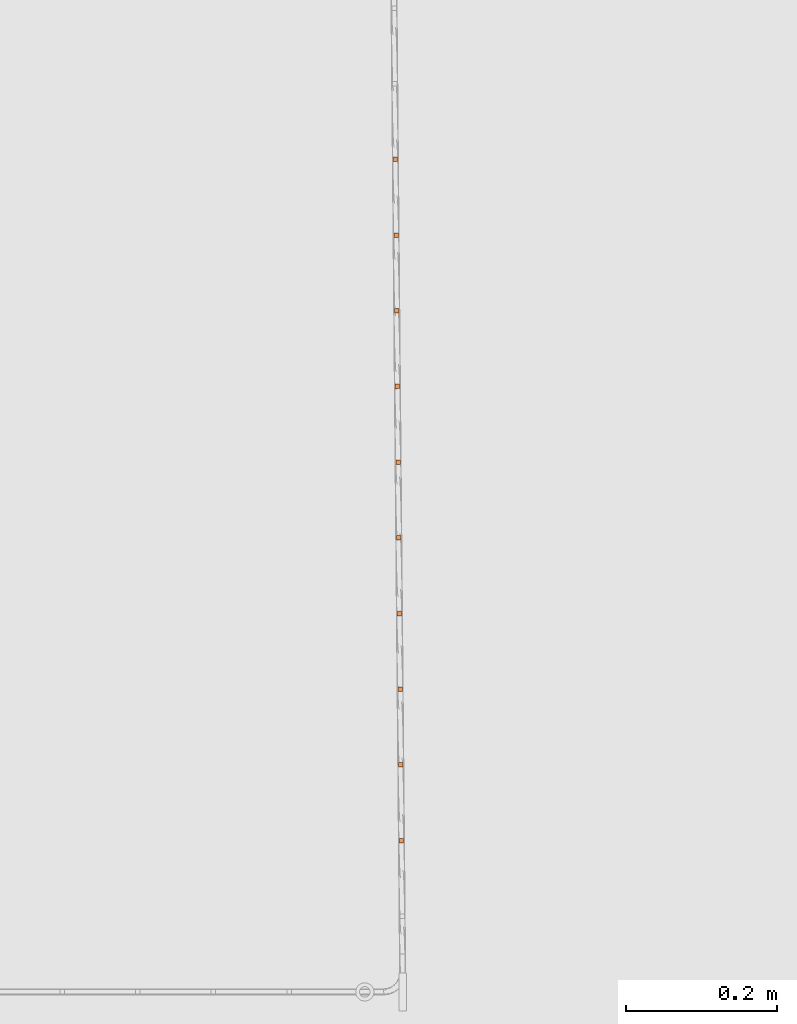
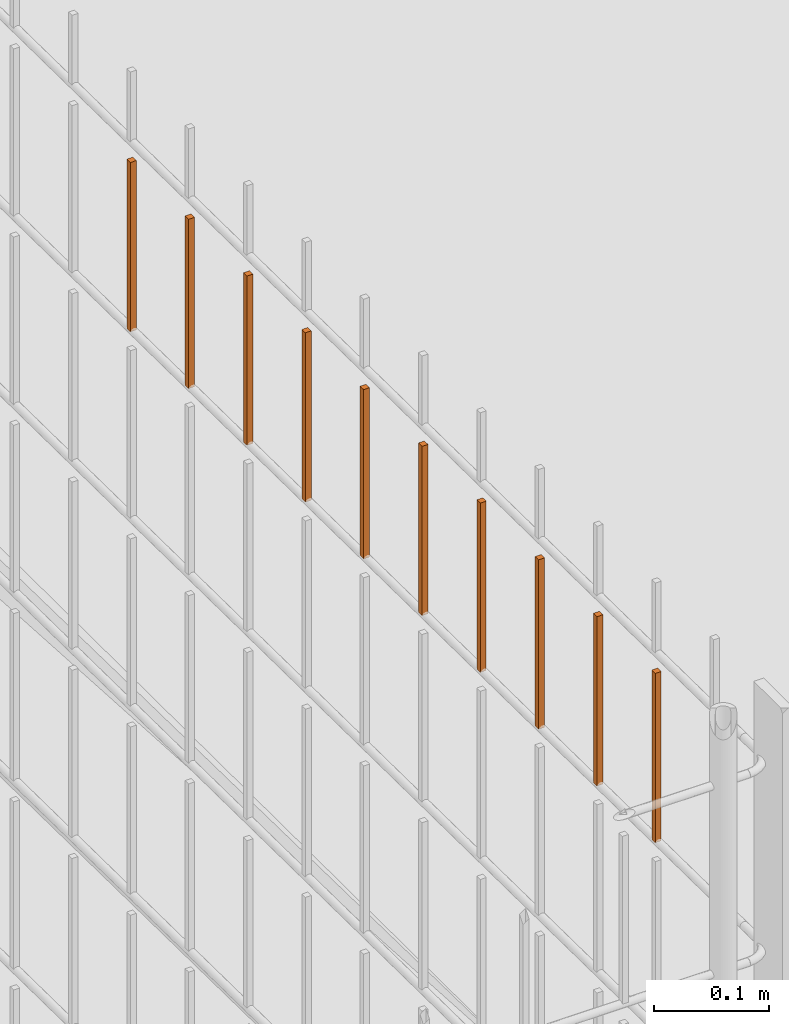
# One storey, part 255 of 1809: 10 proxies, 1 element without a shape of its own.
"""IFC2X3 building model written with IfcOpenShell, lengths in millimetres."""

from ifc_helpers import new_model, entity, si_unit, converted_unit, derived_unit, money_unit, direction, frame, origin_with_axes, place, context, subcontext, project, spatial, faceted_brep, source, transform, mapped, material, type_object, element, aggregate, save


model = new_model("IFC2X3")

# Units and contexts
model_context = context("Model", 3, precision=0.01, world=origin_with_axes(), true_north=direction((0.0, 1.0)))
body_context = subcontext(model_context, "Body", "Model", "MODEL_VIEW")
ifc_project = project(units=[si_unit("LENGTHUNIT", "METRE", prefix="MILLI"), si_unit("AREAUNIT", "SQUARE_METRE"), si_unit("VOLUMEUNIT", "CUBIC_METRE"), converted_unit("PLANEANGLEUNIT", "DEGREE", entity("IfcPlaneAngleMeasure", 0.0174532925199), si_unit("PLANEANGLEUNIT", "RADIAN"), dimensions=[0, 0, 0, 0, 0, 0, 0]), si_unit("SOLIDANGLEUNIT", "STERADIAN"), money_unit("EUR"), converted_unit("TIMEUNIT", "Year", entity("IfcTimeMeasure", 31556926.0), si_unit("TIMEUNIT", "SECOND"), dimensions=[0, 0, 1, 0, 0, 0, 0]), si_unit("MASSUNIT", "GRAM", prefix="KILO"), si_unit("THERMODYNAMICTEMPERATUREUNIT", "DEGREE_CELSIUS"), si_unit("LUMINOUSINTENSITYUNIT", "LUMEN"), si_unit("ENERGYUNIT", "JOULE", prefix="MEGA"), derived_unit("THERMALCONDUCTANCEUNIT", [(si_unit("POWERUNIT", "WATT"), 1), (si_unit("LENGTHUNIT", "METRE"), -1), (si_unit("THERMODYNAMICTEMPERATUREUNIT", "KELVIN"), -1)]), derived_unit("SPECIFICHEATCAPACITYUNIT", [(si_unit("ENERGYUNIT", "JOULE"), 1), (si_unit("MASSUNIT", "GRAM", prefix="KILO"), -1), (si_unit("THERMODYNAMICTEMPERATUREUNIT", "KELVIN"), -1)]), derived_unit("MASSDENSITYUNIT", [(si_unit("MASSUNIT", "GRAM", prefix="KILO"), 1), (si_unit("VOLUMEUNIT", "CUBIC_METRE"), -1)])], contexts=[model_context])

# Site, building, storey
site_placement = place(None, origin_with_axes())
site = spatial("IfcSite", under=ifc_project, at=site_placement, Name="Politse- ja Piirivalveameti ning Päästeameti ühishoone", CompositionType="ELEMENT")
building_placement = place(site_placement, origin_with_axes())
building = spatial("IfcBuilding", under=site, at=building_placement, Name="Politse- ja Piirivalveameti ning Päästeameti ühishoone", CompositionType="ELEMENT")
storey_placement = place(building_placement, origin_with_axes())
storey = spatial("IfcBuildingStorey", under=building, at=storey_placement, Name="Esimene korrus", CompositionType="ELEMENT", Elevation=0.0)

# Proxies
building_element_proxy_type_1 = type_object("IfcBuildingElementProxyType", Name="Railing Type", PredefinedType="NOTDEFINED")
proxy_1_placement = place(storey_placement, frame((-16775.8601056, 25156.7555964, 0.0), z_axis=(0.0, 0.0, 1.0), x_axis=(1.0, 0.0, 0.0)))
proxy_1 = element("IfcBuildingElementProxy", 1, at=proxy_1_placement, inside=storey, type_object=building_element_proxy_type_1, Name="KENNELI PIIRE")
ifc_material = material(Name="Teras - Konstruktsioon")
building_element_proxy_type_2 = type_object("IfcBuildingElementProxyType", Name="IfcBuildingElementProxy", PredefinedType="NOTDEFINED")
shared_shape_1 = source(origin_with_axes(), body_context, "Body", "Brep", [
    faceted_brep([(3.0, 3.0, 0.0), (-3.0, 3.0, 0.0), (-3.0, 3.0, 180.000012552), (3.0, 3.0, 180.000012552), (3.0, -3.0, 0.0), (-3.0, -3.0, 0.0), (-3.0, -3.0, 180.000012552), (3.0, -3.0, 180.000012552)], [[[0, 1, 2, 3]], [[0, 4, 5, 1]], [[1, 5, 6, 2]], [[3, 2, 6, 7]], [[4, 0, 3, 7]], [[5, 4, 7, 6]]]),
])
proxy_2_placement = place(proxy_1_placement, frame((159.928047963, -15168.8758821, 2203.99998745), z_axis=(0.0, 0.0, 1.0), x_axis=(1.0, 0.0, 0.0)))
proxy_2 = element("IfcBuildingElementProxy", 2, at=proxy_2_placement, type_object=building_element_proxy_type_2, material=ifc_material, Name="BALUSTER - 001", context=body_context, shape_type="MappedRepresentation", body=[
    mapped(shared_shape_1, transform((0.0, 0.0, 0.0), x_axis=(0.999960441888, 0.00889464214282, 0.0), y_axis=(-0.00889464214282, 0.999960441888, 0.0), z_axis=(0.0, 0.0, 1.0))),
])
proxy_3_placement = place(proxy_1_placement, frame((158.149119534, -14968.8837937, 2203.99998745), z_axis=(0.0, 0.0, 1.0), x_axis=(1.0, 0.0, 0.0)))
proxy_3 = element("IfcBuildingElementProxy", 3, at=proxy_3_placement, type_object=building_element_proxy_type_2, material=ifc_material, Name="BALUSTER - 001", context=body_context, shape_type="MappedRepresentation", body=[
    mapped(shared_shape_1, transform((0.0, 0.0, 0.0), x_axis=(0.999960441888, 0.00889464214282, 0.0), y_axis=(-0.00889464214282, 0.999960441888, 0.0), z_axis=(0.0, 0.0, 1.0))),
])
shared_shape_2 = source(origin_with_axes(), body_context, "Body", "Brep", [
    faceted_brep([(3.0, 3.0, 0.0), (-3.0, 3.0, 0.0), (-3.0, 3.0, 180.000012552), (3.0, 3.0, 180.000012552), (3.0, -3.0, 0.0), (-3.0, -3.0, 0.0), (-3.0, -3.0, 180.000012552), (3.0, -3.0, 180.000012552)], [[[0, 1, 2, 3]], [[0, 4, 5, 1]], [[1, 5, 6, 2]], [[3, 2, 6, 7]], [[4, 0, 3, 7]], [[5, 4, 7, 6]]]),
])
proxy_4_placement = place(proxy_1_placement, frame((166.154297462, -15868.8481914, 2203.99998745), z_axis=(0.0, 0.0, 1.0), x_axis=(1.0, 0.0, 0.0)))
proxy_4 = element("IfcBuildingElementProxy", 4, at=proxy_4_placement, type_object=building_element_proxy_type_2, material=ifc_material, Name="BALUSTER - 001", context=body_context, shape_type="MappedRepresentation", body=[
    mapped(shared_shape_2, transform((0.0, 0.0, 0.0), x_axis=(0.999960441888, 0.00889464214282, 0.0), y_axis=(-0.00889464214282, 0.999960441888, 0.0), z_axis=(0.0, 0.0, 1.0))),
])
proxy_5_placement = place(proxy_1_placement, frame((165.264833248, -15768.8521472, 2203.99998745), z_axis=(0.0, 0.0, 1.0), x_axis=(1.0, 0.0, 0.0)))
proxy_5 = element("IfcBuildingElementProxy", 5, at=proxy_5_placement, type_object=building_element_proxy_type_2, material=ifc_material, Name="BALUSTER - 001", context=body_context, shape_type="MappedRepresentation", body=[
    mapped(shared_shape_2, transform((0.0, 0.0, 0.0), x_axis=(0.999960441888, 0.00889464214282, 0.0), y_axis=(-0.00889464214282, 0.999960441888, 0.0), z_axis=(0.0, 0.0, 1.0))),
])
proxy_6_placement = place(proxy_1_placement, frame((163.48590482, -15568.8600589, 2203.99998745), z_axis=(0.0, 0.0, 1.0), x_axis=(1.0, 0.0, 0.0)))
proxy_6 = element("IfcBuildingElementProxy", 6, at=proxy_6_placement, type_object=building_element_proxy_type_2, material=ifc_material, Name="BALUSTER - 001", context=body_context, shape_type="MappedRepresentation", body=[
    mapped(shared_shape_2, transform((0.0, 0.0, 0.0), x_axis=(0.999960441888, 0.00889464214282, 0.0), y_axis=(-0.00889464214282, 0.999960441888, 0.0), z_axis=(0.0, 0.0, 1.0))),
])
proxy_7_placement = place(proxy_1_placement, frame((162.596440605, -15468.8640147, 2203.99998745), z_axis=(0.0, 0.0, 1.0), x_axis=(1.0, 0.0, 0.0)))
proxy_7 = element("IfcBuildingElementProxy", 7, at=proxy_7_placement, type_object=building_element_proxy_type_2, material=ifc_material, Name="BALUSTER - 001", context=body_context, shape_type="MappedRepresentation", body=[
    mapped(shared_shape_2, transform((0.0, 0.0, 0.0), x_axis=(0.999960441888, 0.00889464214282, 0.0), y_axis=(-0.00889464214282, 0.999960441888, 0.0), z_axis=(0.0, 0.0, 1.0))),
])
proxy_8_placement = place(proxy_1_placement, frame((161.706976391, -15368.8679705, 2203.99998745), z_axis=(0.0, 0.0, 1.0), x_axis=(1.0, 0.0, 0.0)))
proxy_8 = element("IfcBuildingElementProxy", 8, at=proxy_8_placement, type_object=building_element_proxy_type_2, material=ifc_material, Name="BALUSTER - 001", context=body_context, shape_type="MappedRepresentation", body=[
    mapped(shared_shape_2, transform((0.0, 0.0, 0.0), x_axis=(0.999960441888, 0.00889464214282, 0.0), y_axis=(-0.00889464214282, 0.999960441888, 0.0), z_axis=(0.0, 0.0, 1.0))),
])
proxy_9_placement = place(proxy_1_placement, frame((160.817512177, -15268.8719263, 2203.99998745), z_axis=(0.0, 0.0, 1.0), x_axis=(1.0, 0.0, 0.0)))
proxy_9 = element("IfcBuildingElementProxy", 9, at=proxy_9_placement, type_object=building_element_proxy_type_2, material=ifc_material, Name="BALUSTER - 001", context=body_context, shape_type="MappedRepresentation", body=[
    mapped(shared_shape_2, transform((0.0, 0.0, 0.0), x_axis=(0.999960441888, 0.00889464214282, 0.0), y_axis=(-0.00889464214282, 0.999960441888, 0.0), z_axis=(0.0, 0.0, 1.0))),
])
proxy_10_placement = place(proxy_1_placement, frame((159.038583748, -15068.8798379, 2203.99998745), z_axis=(0.0, 0.0, 1.0), x_axis=(1.0, 0.0, 0.0)))
proxy_10 = element("IfcBuildingElementProxy", 10, at=proxy_10_placement, type_object=building_element_proxy_type_2, material=ifc_material, Name="BALUSTER - 001", context=body_context, shape_type="MappedRepresentation", body=[
    mapped(shared_shape_2, transform((0.0, 0.0, 0.0), x_axis=(0.999960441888, 0.00889464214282, 0.0), y_axis=(-0.00889464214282, 0.999960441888, 0.0), z_axis=(0.0, 0.0, 1.0))),
])
shared_shape_3 = source(origin_with_axes(), body_context, "Body", "Brep", [
    faceted_brep([(3.0, 3.0, 0.0), (-3.0, 3.0, 0.0), (-3.0, 3.0, 180.000012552), (3.0, 3.0, 180.000012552), (3.0, -3.0, 0.0), (-3.0, -3.0, 0.0), (-3.0, -3.0, 180.000012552), (3.0, -3.0, 180.000012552)], [[[0, 1, 2, 3]], [[0, 4, 5, 1]], [[1, 5, 6, 2]], [[3, 2, 6, 7]], [[4, 0, 3, 7]], [[5, 4, 7, 6]]]),
])
proxy_11_placement = place(proxy_1_placement, frame((164.375369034, -15668.856103, 2203.99998745), z_axis=(0.0, 0.0, 1.0), x_axis=(1.0, 0.0, 0.0)))
proxy_11 = element("IfcBuildingElementProxy", 11, at=proxy_11_placement, type_object=building_element_proxy_type_2, material=ifc_material, Name="BALUSTER - 001", context=body_context, shape_type="MappedRepresentation", body=[
    mapped(shared_shape_3, transform((0.0, 0.0, 0.0), x_axis=(0.999960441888, 0.00889464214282, 0.0), y_axis=(-0.00889464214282, 0.999960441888, 0.0), z_axis=(0.0, 0.0, 1.0))),
])
aggregate(proxy_1, [proxy_4, proxy_5, proxy_11, proxy_6, proxy_7, proxy_8, proxy_9, proxy_2, proxy_10, proxy_3])

save(model, "model.ifc")
